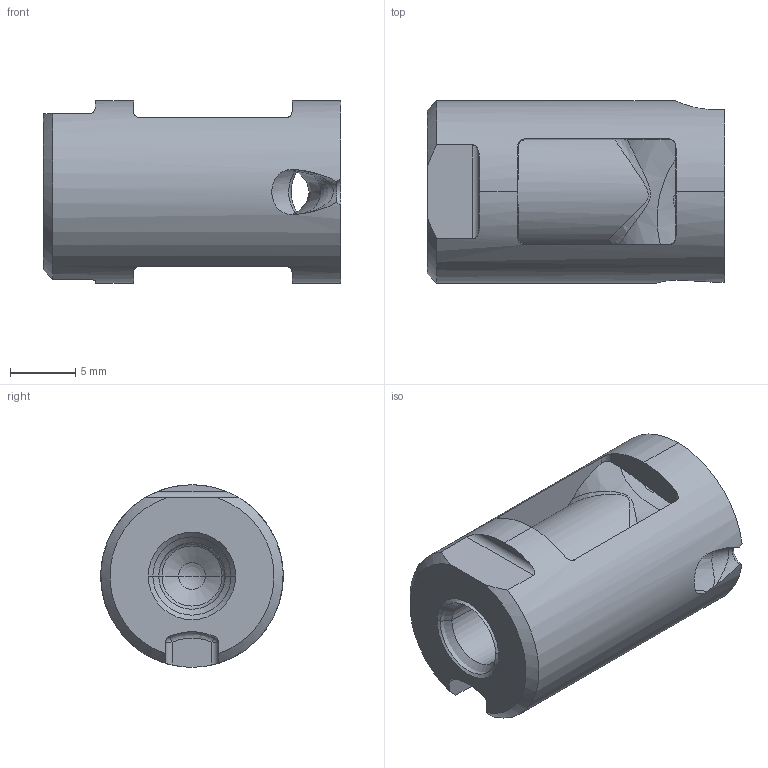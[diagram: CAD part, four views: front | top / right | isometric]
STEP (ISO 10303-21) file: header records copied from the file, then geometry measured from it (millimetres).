
FILE_DESCRIPTION((''),'2;1');
FILE_NAME('TGR14-16-S1','2004-03-24T',('tmeister'),(''),'PRO/ENGINEER BY PARAMETRIC TECHNOLOGY CORPORATION, 2002270','PRO/ENGINEER BY PARAMETRIC TECHNOLOGY CORPORATION, 2002270','');
FILE_SCHEMA(('CONFIG_CONTROL_DESIGN'));
Length unit declared in the file: millimetre
Products named in the file (1): TGR14-16-S1
Bounding box: 22.8 x 14 x 14 mm (x, y, z)
Volume: 2496.6 mm3; surface area: 2020.1 mm2
Topology: 1 solids, 2 shells, 76 faces, 272 edges, 197 vertices
Faces by surface type: cylinder 20, plane 19, cone 15, bspline 14, sphere 5, torus 3
Entity records: 5287 total; most frequent: CARTESIAN_POINT 3342, ORIENTED_EDGE 398, DIRECTION 302, EDGE_CURVE 201, B_SPLINE_CURVE_WITH_KNOTS 140, VERTEX_POINT 128, AXIS2_PLACEMENT_3D 110, VECTOR 82
